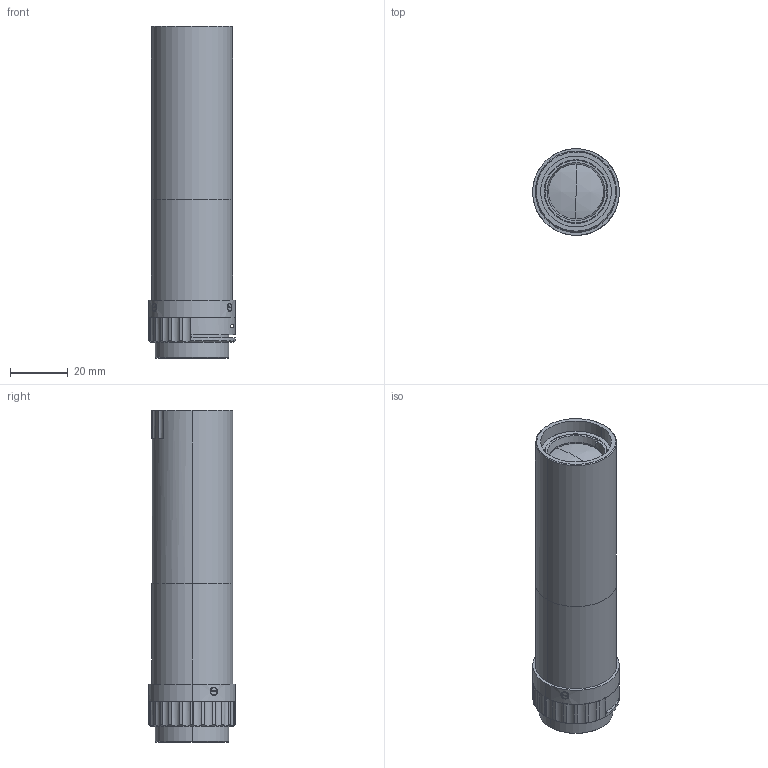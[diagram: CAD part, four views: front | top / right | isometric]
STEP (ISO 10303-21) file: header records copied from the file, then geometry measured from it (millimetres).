
FILE_DESCRIPTION (( 'STEP AP214' ), '1' );
FILE_NAME ('82992156536BB28F-00 軞蚾芞俋倛芞.STEP', '2022-07-14T12:26:10', ( '' ), ( '' ), 'SwSTEP 2.0', 'SolidWorks 2016', '' );
FILE_SCHEMA (( 'AUTOMOTIVE_DESIGN' ));
Length unit declared in the file: millimetre
Products named in the file (1): 82992156536BB28F-00 軞蚾芞俋倛芞
Bounding box: 30 x 30.03 x 114.75 mm (x, y, z)
Volume: 46421.5 mm3; surface area: 26950.5 mm2
Topology: 14 solids, 14 shells, 281 faces, 657 edges, 419 vertices
Faces by surface type: cylinder 137, plane 82, cone 46, sphere 16
Entity records: 11842 total; most frequent: CARTESIAN_POINT 1916, DIRECTION 1514, ORIENTED_EDGE 1302, EDGE_CURVE 651, AXIS2_PLACEMENT_3D 637, VERTEX_POINT 419, CIRCLE 355, EDGE_LOOP 326
